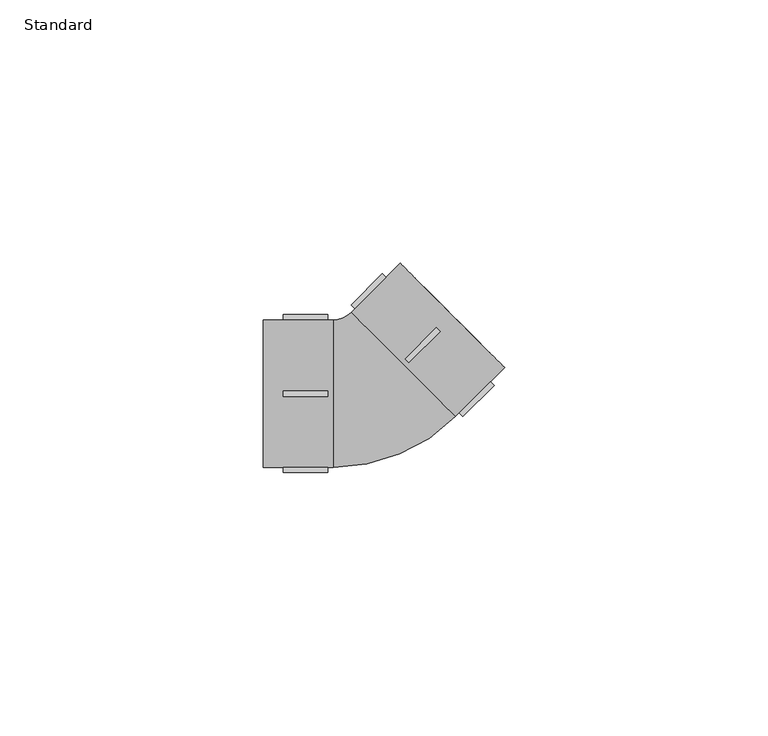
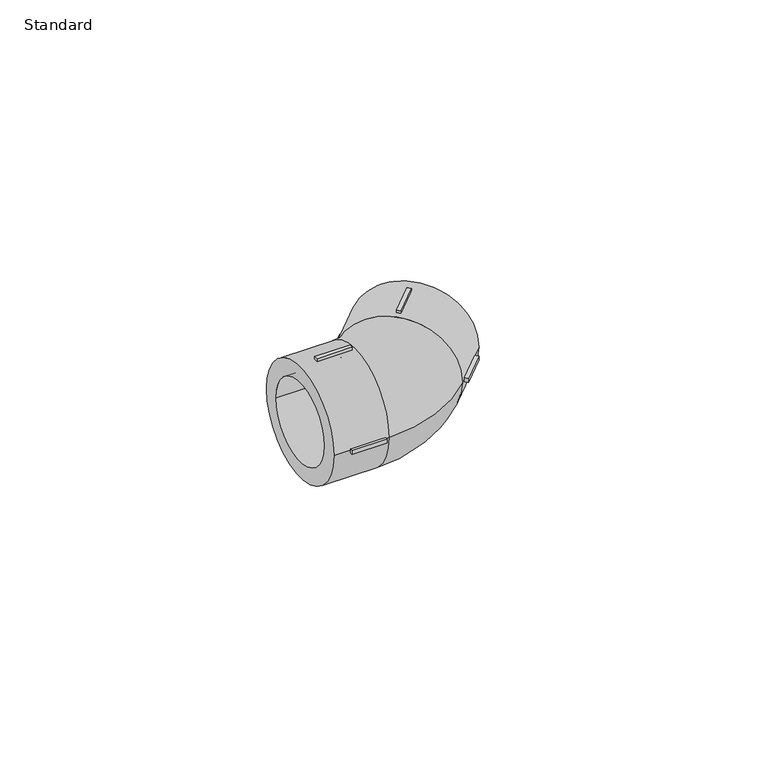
"""IFC4 building model written with IfcOpenShell, lengths in millimetres: pipe fitting geometry, EGB_VASEN_ PPR_Codo 90 WXR200_Codo 45 WXR220  : Standard."""

import ifcopenshell
import ifcopenshell.guid

model = None  # the IFC model being written
_history = None  # IfcOwnerHistory: only IFC2X3 demands one
_inside = {}  # id of a spatial element -> (the spatial element, [elements in it])
_under = {}  # id of a project, library or spatial element -> (it, [spatial elements below it])
_declared = {}  # id of a project -> (the project, [libraries it declares])
_typed = {}  # id of a type object -> (the type object, [elements of that type])
_made_of = {}  # id of a material, layer set ... -> (it, [elements and type objects made of it])


def new_model(schema):
    """Start an empty IFC model of exactly this schema.

    Asked for "IFC4X3", IfcOpenShell would pick the latest addendum, in which some entities
    have other attributes; the version numbers below select the first issue.
    IFC2X3 requires an IfcOwnerHistory on every rooted entity: one is made here for all.
    """
    global model, _history
    if schema == "IFC4X3":
        model = ifcopenshell.file(schema_version=(4, 3, 0, 0))
    else:
        model = ifcopenshell.file(schema=schema)
    _inside.clear()
    _under.clear()
    _declared.clear()
    _typed.clear()
    _made_of.clear()
    _history = None
    if model.schema == "IFC2X3":
        org = make("IfcOrganization", Name="unknown")
        user = make(
            "IfcPersonAndOrganization",
            ThePerson=make("IfcPerson", FamilyName="unknown"),
            TheOrganization=org,
        )
        app = make(
            "IfcApplication",
            ApplicationDeveloper=org,
            Version="unknown",
            ApplicationFullName="unknown",
            ApplicationIdentifier="unknown",
        )
        _history = make(
            "IfcOwnerHistory",
            OwningUser=user,
            OwningApplication=app,
            ChangeAction="ADDED",
            CreationDate=0,
        )
    return model


def make(cls, **values):
    """One entity of the class cls with the attributes given. An attribute that is None is left unset."""
    return model.create_entity(
        cls, **{name: value for name, value in values.items() if value is not None}
    )


def rooted(cls, **values):
    """An entity with a GlobalId (a new one), such as an element, a storey or a relation."""
    return make(cls, GlobalId=ifcopenshell.guid.new(), OwnerHistory=_history, **values)


def si_unit(unit_type, name, prefix=None):
    """IfcSIUnit, for example si_unit("LENGTHUNIT", "METRE", prefix="MILLI")."""
    return make("IfcSIUnit", UnitType=unit_type, Prefix=prefix, Name=name)


def assignment(units):
    """IfcUnitAssignment: the units of a project."""
    return None if units is None else make("IfcUnitAssignment", Units=units)


def point(xyz):
    """IfcCartesianPoint."""
    return None if xyz is None else make("IfcCartesianPoint", Coordinates=xyz)


def direction(xyz):
    """IfcDirection."""
    return None if xyz is None else make("IfcDirection", DirectionRatios=xyz)


def frame(location, z_axis=None, x_axis=None):
    """IfcAxis2Placement3D, a coordinate frame: its origin and axes. An axis left out is left unset."""
    return make(
        "IfcAxis2Placement3D",
        Location=point(location),
        Axis=direction(z_axis),
        RefDirection=direction(x_axis),
    )


def origin():
    """The frame at (0, 0, 0) with its axes left unset."""
    return frame((0.0, 0.0, 0.0))


def place(relative_to, where):
    """IfcLocalPlacement: puts the frame where relative to a parent placement (None: the world)."""
    return make(
        "IfcLocalPlacement", PlacementRelTo=relative_to, RelativePlacement=where
    )


def context(
    kind, dimensions, precision=None, world=None, true_north=None, identifier=None
):
    """IfcGeometricRepresentationContext, for example the 3D "Model" context."""
    return make(
        "IfcGeometricRepresentationContext",
        ContextIdentifier=identifier,
        ContextType=kind,
        CoordinateSpaceDimension=dimensions,
        Precision=precision,
        WorldCoordinateSystem=world,
        TrueNorth=true_north,
    )


def project(units=None, contexts=None):
    """IfcProject with its units and contexts."""
    return rooted(
        "IfcProject",
        Name="project",
        RepresentationContexts=contexts,
        UnitsInContext=assignment(units),
    )


def spatial(cls, under=None, at=None, **own):
    """A site, building, storey or space (cls), placed at a placement, below another one or the project."""
    s = rooted(cls, ObjectPlacement=at, **own)
    if under is not None:
        _under.setdefault(under.id(), (under, []))[1].append(s)
    return s


def polyline(points):
    """IfcPolyline through the points."""
    return make("IfcPolyline", Points=[point(p) for p in points])


def circle_curve(where, radius):
    """IfcCircle in the frame where."""
    return make("IfcCircle", Position=where, Radius=radius)


def ellipse_curve(where, semi_axis1, semi_axis2):
    """IfcEllipse in the frame where."""
    return make(
        "IfcEllipse", Position=where, SemiAxis1=semi_axis1, SemiAxis2=semi_axis2
    )


def trimmed(basis, trim1, trim2, sense, master):
    """IfcTrimmedCurve: the piece of a basis curve between two trims."""
    return make(
        "IfcTrimmedCurve",
        BasisCurve=basis,
        Trim1=trim1,
        Trim2=trim2,
        SenseAgreement=sense,
        MasterRepresentation=master,
    )


def outline(outer, holes=None, kind="AREA"):
    """IfcArbitraryClosedProfileDef: a profile drawn as a closed curve; with holes, ...WithVoids."""
    if holes is None:
        return make("IfcArbitraryClosedProfileDef", ProfileType=kind, OuterCurve=outer)
    return make(
        "IfcArbitraryProfileDefWithVoids",
        ProfileType=kind,
        OuterCurve=outer,
        InnerCurves=holes,
    )


def extrude(swept, where, along, depth):
    """IfcExtrudedAreaSolid: the profile swept, set in the frame where, extruded along a direction by depth."""
    return make(
        "IfcExtrudedAreaSolid",
        SweptArea=swept,
        Position=where,
        ExtrudedDirection=direction(along),
        Depth=depth,
    )


def shape(context_of_items, identifier, shape_type, items):
    """IfcShapeRepresentation: the items that make up one representation, for example the "Body"."""
    return make(
        "IfcShapeRepresentation",
        ContextOfItems=context_of_items,
        RepresentationIdentifier=identifier,
        RepresentationType=shape_type,
        Items=items,
    )


def source(mapping_origin, context_of_items, identifier, shape_type, items):
    """IfcRepresentationMap: a shape defined once, which mapped items show again and again."""
    return make(
        "IfcRepresentationMap",
        MappingOrigin=mapping_origin,
        MappedRepresentation=shape(context_of_items, identifier, shape_type, items),
    )


def transform(
    local_origin,
    x_axis=None,
    y_axis=None,
    z_axis=None,
    scale=None,
    scale2=None,
    scale3=None,
    uniform=True,
):
    """IfcCartesianTransformationOperator3D, or its non-uniform kind. x_axis, y_axis, z_axis: its Axis1, 2, 3."""
    if uniform:
        return make(
            "IfcCartesianTransformationOperator3D",
            Axis1=direction(x_axis),
            Axis2=direction(y_axis),
            LocalOrigin=point(local_origin),
            Scale=scale,
            Axis3=direction(z_axis),
        )
    return make(
        "IfcCartesianTransformationOperator3DnonUniform",
        Axis1=direction(x_axis),
        Axis2=direction(y_axis),
        LocalOrigin=point(local_origin),
        Scale=scale,
        Axis3=direction(z_axis),
        Scale2=scale2,
        Scale3=scale3,
    )


def mapped(mapping_source, mapping_target):
    """IfcMappedItem: shows the shape of a source again, moved by a transform."""
    return make(
        "IfcMappedItem", MappingSource=mapping_source, MappingTarget=mapping_target
    )


def made_of(thing, what):
    """Note that an element or type object is made of a material, layer set ...; save() writes the relation."""
    if what is not None:
        _made_of.setdefault(what.id(), (what, []))[1].append(thing)
    return thing


def element(
    cls,
    number,
    at=None,
    inside=None,
    cuts=None,
    type_object=None,
    material=None,
    context=None,
    identifier="Body",
    shape_type=None,
    held_by="IfcProductDefinitionShape",
    body=None,
    shapes=None,
    **own,
):
    """One element of the class cls, such as IfcWall. Its Tag is "e" and its number.

    at: its placement. inside: the storey or other place that contains it. cuts: it is an
    opening in that element (IfcRelVoidsElement). A single representation is given by context,
    identifier, shape_type and body (its items); several are given by shapes. held_by: the class
    of the entity that holds the representations. save() writes the other relations.
    """
    e = rooted(cls, Tag="e%d" % number, ObjectPlacement=at, **own)
    if body is not None:
        shapes = [shape(context, identifier, shape_type, body)]
    if shapes is not None:
        e.Representation = make(held_by, Representations=shapes)
    if inside is not None:
        _inside.setdefault(inside.id(), (inside, []))[1].append(e)
    if cuts is not None:
        rooted(
            "IfcRelVoidsElement", RelatingBuildingElement=cuts, RelatedOpeningElement=e
        )
    if type_object is not None:
        _typed.setdefault(type_object.id(), (type_object, []))[1].append(e)
    return made_of(e, material)


def aggregate(whole, parts):
    """IfcRelAggregates: a whole, such as a stair, and the parts it consists of."""
    return rooted("IfcRelAggregates", RelatingObject=whole, RelatedObjects=parts)


def save(model, path):
    """Write the relations noted so far, then the file.

    IfcRelAggregates (storeys below a building ...), IfcRelContainedInSpatialStructure (elements
    in a storey), IfcRelDefinesByType, IfcRelAssociatesMaterial and IfcRelDeclares: one each for
    every whole, place, type object, material and project.
    """
    for whole, parts in _under.values():
        aggregate(whole, parts)
    for where, things in _inside.values():
        rooted(
            "IfcRelContainedInSpatialStructure",
            RelatedElements=things,
            RelatingStructure=where,
        )
    for kind, things in _typed.values():
        rooted("IfcRelDefinesByType", RelatedObjects=things, RelatingType=kind)
    for what, things in _made_of.values():
        rooted("IfcRelAssociatesMaterial", RelatedObjects=things, RelatingMaterial=what)
    for by, libraries in _declared.values():
        rooted("IfcRelDeclares", RelatingContext=by, RelatedDefinitions=libraries)
    model.write(path)


def plane_surface(at):
    """IfcPlane: the flat surface through the origin of the frame at, square to its z axis."""
    return make("IfcPlane", Position=at)


def cylinder_surface(at, radius):
    """IfcCylindricalSurface: all points at the distance radius from the z axis of the frame at."""
    return make("IfcCylindricalSurface", Position=at, Radius=radius)


def revolved_surface(curve, axis_point, axis_direction):
    """IfcSurfaceOfRevolution: the curve turned about the line through axis_point along axis_direction."""
    return make(
        "IfcSurfaceOfRevolution",
        SweptCurve=make("IfcArbitraryOpenProfileDef", ProfileType="CURVE", Curve=curve),
        AxisPosition=make("IfcAxis1Placement", Location=point(axis_point), Axis=direction(axis_direction)),
    )


def advanced_brep(points, edges, surfaces, faces):
    """IfcAdvancedBrep: a solid bounded by faces that lie on surfaces and meet in shared edges.

    An edge is (start, end): straight between two places in points (the first is 0);
    or (start, end, curve); or (start, end, curve, False) where it runs against its curve.
    A face is (place in surfaces, loops), or (place, loops, False) where it looks against
    its surface's normal. A loop lists edges by number (the first is 1), with a minus sign
    where the edge is run from its end to its start. The first loop is the outer one.
    """
    corners = [point(p) for p in points]
    vertices = [make("IfcVertexPoint", VertexGeometry=c) for c in corners]
    made = []
    for start, end, *more in edges:
        made.append(
            make(
                "IfcEdgeCurve",
                EdgeStart=vertices[start],
                EdgeEnd=vertices[end],
                EdgeGeometry=more[0] if more else make("IfcPolyline", Points=[corners[start], corners[end]]),
                SameSense=more[1] if len(more) > 1 else True,
            )
        )
    hull = []
    for where, loops, *sense in faces:
        bounds = []
        for j, loop in enumerate(loops):
            ring = [make("IfcOrientedEdge", EdgeElement=made[abs(k) - 1], Orientation=k > 0) for k in loop]
            bounds.append(
                make(
                    "IfcFaceOuterBound" if j == 0 else "IfcFaceBound",
                    Bound=make("IfcEdgeLoop", EdgeList=ring),
                    Orientation=True,
                )
            )
        hull.append(make("IfcAdvancedFace", Bounds=bounds, FaceSurface=surfaces[where], SameSense=sense[0] if sense else True))
    return make("IfcAdvancedBrep", Outer=make("IfcClosedShell", CfsFaces=hull))


def standard_9f14ab5f(model_context):
    return source(origin(), model_context, "Body", "SolidModel", [
        advanced_brep(
        [(-21.0, -14.0, 0.0), (-21.0, 14.0, 0.0), (-21.0, -10.0, 0.0), (-21.0, 10.0, 0.0), (-7.7989899, -14.0, 0.0), (-7.7989899, 14.0, 0.0), (-7.7989899, -10.0, 0.0), (-7.7989899, 10.0, 0.0), (12.5857864, -1.5563492, 0.0), (-1.5563492, 12.5857864, 0.0), (-4.3847763, 15.4142136, 0.0), (15.4142136, -4.3847763, 0.0), (24.7487373, 4.9497475, 0.0), (4.9497475, 24.7487373, 0.0), (21.9203102, 7.7781746, 0.0), (7.7781746, 21.9203102, 0.0)],
        [
            (0, 1, circle_curve(frame((-21.0, 0.0, 0.0), z_axis=(-1.0, 0.0, 0.0), x_axis=(0.0, 1.0, 0.0)), 14.0)),
            (1, 0, circle_curve(frame((-21.0, 0.0, 0.0), z_axis=(-1.0, 0.0, 0.0), x_axis=(0.0, 1.0, 0.0)), 14.0)),
            (2, 3, circle_curve(frame((-21.0, 0.0, 0.0), z_axis=(1.0, 0.0, 0.0), x_axis=(0.0, 1.0, 0.0)), 10.0)),
            (3, 2, circle_curve(frame((-21.0, 0.0, 0.0), z_axis=(1.0, 0.0, 0.0), x_axis=(0.0, 1.0, 0.0)), 10.0)),
            (0, 4),
            (4, 5, circle_curve(frame((-7.7989899, 0.0, 0.0), z_axis=(-1.0, 0.0, 0.0), x_axis=(0.0, 1.0, 0.0)), 14.0)),
            (5, 1),
            (5, 4, circle_curve(frame((-7.7989899, 0.0, 0.0), z_axis=(-1.0, 0.0, 0.0), x_axis=(0.0, 1.0, 0.0)), 14.0)),
            (2, 6),
            (6, 7, circle_curve(frame((-7.7989899, 0.0, 0.0), z_axis=(1.0, 0.0, 0.0), x_axis=(0.0, 1.0, 0.0)), 10.0)),
            (7, 3),
            (7, 6, circle_curve(frame((-7.7989899, 0.0, 0.0), z_axis=(1.0, 0.0, 0.0), x_axis=(0.0, 1.0, 0.0)), 10.0)),
            (8, 9, circle_curve(frame((5.5147186, 5.5147186, 0.0), z_axis=(0.707106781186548, 0.7071067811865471, 0.0), x_axis=(-0.7071067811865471, 0.707106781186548, 0.0)), 10.0)),
            (9, 8, circle_curve(frame((5.5147186, 5.5147186, 0.0), z_axis=(0.707106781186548, 0.7071067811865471, 0.0), x_axis=(-0.7071067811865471, 0.707106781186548, 0.0)), 10.0)),
            (10, 5, circle_curve(frame((-7.7989899, 18.8284271, 0.0), z_axis=(0.0, 0.0, -1.0), x_axis=(0.0, -1.0, 0.0)), 4.8284271)),
            (4, 11, circle_curve(frame((-7.7989899, 18.8284271, 0.0), z_axis=(0.0, 0.0, 1.0), x_axis=(0.0, -1.0, 0.0)), 32.8284271)),
            (11, 10, circle_curve(frame((5.5147186, 5.5147186, 0.0), z_axis=(-0.7071067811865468, -0.7071067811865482, 0.0), x_axis=(-0.7071067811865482, 0.7071067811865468, 0.0)), 14.0)),
            (10, 11, circle_curve(frame((5.5147186, 5.5147186, 0.0), z_axis=(-0.7071067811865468, -0.7071067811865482, 0.0), x_axis=(-0.7071067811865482, 0.7071067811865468, 0.0)), 14.0)),
            (12, 13, circle_curve(frame((14.8492424, 14.8492424, 0.0), z_axis=(0.707106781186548, 0.7071067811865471, 0.0), x_axis=(-0.7071067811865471, 0.707106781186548, 0.0)), 14.0)),
            (13, 12, circle_curve(frame((14.8492424, 14.8492424, 0.0), z_axis=(0.707106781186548, 0.7071067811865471, 0.0), x_axis=(-0.7071067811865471, 0.707106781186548, 0.0)), 14.0)),
            (14, 15, circle_curve(frame((14.8492424, 14.8492424, 0.0), z_axis=(-0.707106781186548, -0.7071067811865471, 0.0), x_axis=(-0.7071067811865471, 0.707106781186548, 0.0)), 10.0)),
            (15, 14, circle_curve(frame((14.8492424, 14.8492424, 0.0), z_axis=(-0.707106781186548, -0.7071067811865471, 0.0), x_axis=(-0.7071067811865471, 0.707106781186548, 0.0)), 10.0)),
            (13, 10),
            (11, 12),
            (15, 9),
            (8, 14),
        ],
        [
            plane_surface(frame((-21.0, 0.0, 0.0), z_axis=(-1.0, 0.0, 0.0), x_axis=(0.0, 0.0, 1.0))),
            cylinder_surface(frame((-21.0, 0.0, 0.0), z_axis=(-1.0, 0.0, 0.0), x_axis=(0.0, 1.0, 0.0)), 14.0),
            revolved_surface(polyline([(-7.798989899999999, 10.0, 0.0), (-21.0, 10.0, 0.0)]), (-21.0, 0.0, 0.0), (1.0, 0.0, 0.0)),
            plane_surface(frame((-7.7989899, 0.0, 0.0), z_axis=(-1.0, 0.0, 0.0), x_axis=(0.0, 0.0, 1.0))),
            plane_surface(frame((5.5147186, 5.5147186, 0.0), z_axis=(0.7071067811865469, 0.7071067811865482, 0.0), x_axis=(0.0, 0.0, 1.0))),
            revolved_surface(trimmed(ellipse_curve(frame((-7.7989899, 0.0, 0.0), z_axis=(-1.0, 0.0, 0.0), x_axis=(0.0, 1.0, 0.0)), 14.0, 14.0), [point((-7.7989899, -14.0, 0.0))], [point((-7.7989899, 14.0, 0.0))], True, "CARTESIAN"), (-7.7989899, 18.8284271, 0.0), (0.0, 0.0, 1.0)),
            revolved_surface(trimmed(ellipse_curve(frame((-7.7989899, 0.0, 0.0), z_axis=(-1.0, 0.0, 0.0), x_axis=(0.0, 1.0, 0.0)), 14.0, 14.0), [point((-7.7989899, 14.0, 0.0))], [point((-7.7989899, -14.0, 0.0))], True, "CARTESIAN"), (-7.7989899, 18.8284271, 0.0), (0.0, 0.0, 1.0)),
            plane_surface(frame((14.8492424, 14.8492424, 0.0), z_axis=(0.707106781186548, 0.7071067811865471, 0.0), x_axis=(0.0, 0.0, 1.0))),
            cylinder_surface(frame((5.5147186, 5.5147186, 0.0), z_axis=(-0.707106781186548, -0.7071067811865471, 0.0), x_axis=(-0.7071067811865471, 0.707106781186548, 0.0)), 14.0),
            revolved_surface(polyline([(7.778174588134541, 21.92031021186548, 0.0), (-1.5563492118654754, 12.585786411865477, 0.0)]), (5.5147186, 5.5147186, 0.0), (0.707106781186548, 0.7071067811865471, 0.0)),
        ],
        [
            (0, [[1, 2], [3, 4]]),
            (1, [[-1, 5, 6, 7]]),
            (1, [[-2, -7, 8, -5]]),
            (2, [[-3, 9, 10, 11]]),
            (2, [[-4, -11, 12, -9]]),
            (3, [[-10, -12]]),
            (4, [[13, 14]]),
            (5, [[15, -6, 16, 17]]),
            (6, [[-15, 18, -16, -8]]),
            (7, [[19, 20], [21, 22]]),
            (8, [[-20, 23, -17, 24]]),
            (8, [[-19, -24, -18, -23]]),
            (9, [[-22, 25, -13, 26]]),
            (9, [[-21, -26, -14, -25]]),
        ],
    ),
        extrude(outline(polyline([(6.5753788, 5.868272), (5.868272, 6.5753788), (11.807969, 12.5150758), (12.5150758, 11.807969), (6.5753788, 5.868272)])), frame((0.0, 0.0, 13.0), z_axis=(0.0, 0.0, 1.0), x_axis=(1.0, 0.0, 0.0)), (0.0, 0.0, 1.0), 2.0),
        extrude(outline(polyline([(-2.9705627, 15.4142136), (-4.3847763, 16.8284271), (1.5549207, 22.7681241), (2.9691342, 21.3539105), (-2.9705627, 15.4142136)])), frame((0.0, 0.0, -0.5), z_axis=(0.0, 0.0, 1.0), x_axis=(1.0, 0.0, 0.0)), (0.0, 0.0, 1.0), 1.0),
        extrude(outline(polyline([(16.8284271, -4.3847763), (15.4142136, -2.9705627), (21.3539105, 2.9691342), (22.7681241, 1.5549207), (16.8284271, -4.3847763)])), frame((0.0, 0.0, -0.5), z_axis=(0.0, 0.0, 1.0), x_axis=(1.0, 0.0, 0.0)), (0.0, 0.0, 1.0), 1.0),
        extrude(outline(polyline([(6.5753788, 5.868272), (5.868272, 6.5753788), (11.807969, 12.5150758), (12.5150758, 11.807969), (6.5753788, 5.868272)])), frame((0.0, 0.0, -15.0), z_axis=(0.0, 0.0, 1.0), x_axis=(1.0, 0.0, 0.0)), (0.0, 0.0, 1.0), 2.0),
        extrude(outline(polyline([(-8.7989899, 0.5), (-8.7989899, -0.5), (-17.1989899, -0.5), (-17.1989899, 0.5), (-8.7989899, 0.5)])), frame((0.0, 0.0, 13.0), z_axis=(0.0, 0.0, 1.0), x_axis=(1.0, 0.0, 0.0)), (0.0, 0.0, 1.0), 2.0),
        extrude(outline(polyline([(-8.7989899, 0.5), (-8.7989899, -0.5), (-17.1989899, -0.5), (-17.1989899, 0.5), (-8.7989899, 0.5)])), frame((0.0, 0.0, -15.0), z_axis=(0.0, 0.0, 1.0), x_axis=(1.0, 0.0, 0.0)), (0.0, 0.0, 1.0), 2.0),
        extrude(outline(polyline([(-8.7989899, 15.0), (-8.7989899, 13.0), (-17.1989899, 13.0), (-17.1989899, 15.0), (-8.7989899, 15.0)])), frame((0.0, 0.0, -0.5), z_axis=(0.0, 0.0, 1.0), x_axis=(1.0, 0.0, 0.0)), (0.0, 0.0, 1.0), 1.0),
        extrude(outline(polyline([(-8.7989899, -13.0), (-8.7989899, -15.0), (-17.1989899, -15.0), (-17.1989899, -13.0), (-8.7989899, -13.0)])), frame((0.0, 0.0, -0.5), z_axis=(0.0, 0.0, 1.0), x_axis=(1.0, 0.0, 0.0)), (0.0, 0.0, 1.0), 1.0),
    ])


if __name__ == "__main__":
    model = new_model("IFC4")
    model_context = context("Model", 3, world=origin())
    ifc_project = project(units=[si_unit("LENGTHUNIT", "METRE", prefix="MILLI")], contexts=[model_context])
    site = spatial("IfcSite", under=ifc_project)
    building = spatial("IfcBuilding", under=site)
    placement = place(None, origin())
    standard_shape = standard_9f14ab5f(model_context)
    element("IfcPipeFitting", 1, ObjectType="EGB_VASEN_ PPR_Codo 90 WXR200_Codo 45 WXR220  : Standard", at=placement, inside=building, context=model_context, shape_type="MappedRepresentation", body=[
        mapped(standard_shape, transform((0.0, 0.0, 0.0), x_axis=(1.0, 0.0, 0.0), y_axis=(0.0, 1.0, 0.0), z_axis=(0.0, 0.0, 1.0))),
    ])
    save(model, "model.ifc")
